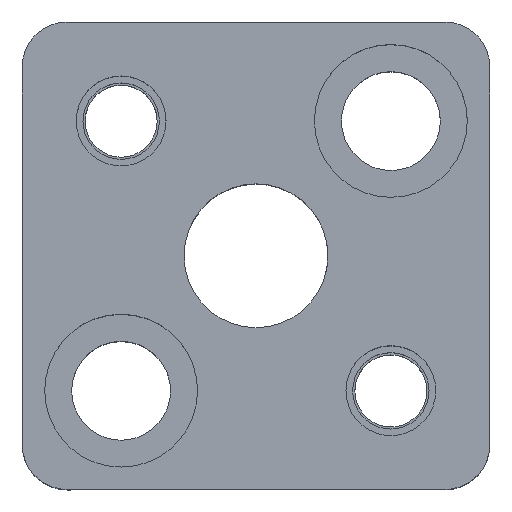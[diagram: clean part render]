
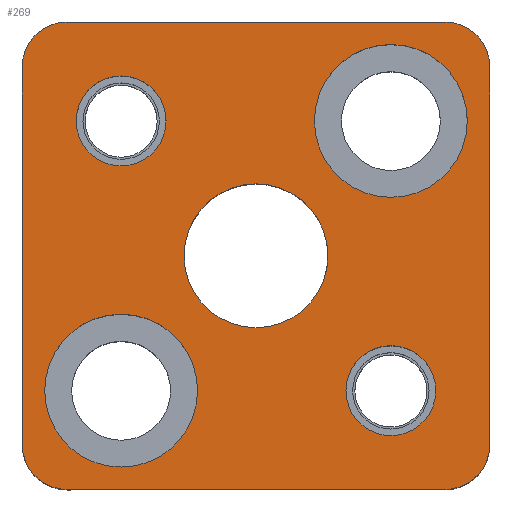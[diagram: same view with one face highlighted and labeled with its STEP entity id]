
A CAD part, top view. The second image highlights one B-rep face of the part: STEP entity #269.
In plain terms, the highlighted planar face has unit normal (0, 0, 1).
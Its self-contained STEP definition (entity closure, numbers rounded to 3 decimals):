
#111=FACE_BOUND('',#400,.T.);
#112=FACE_BOUND('',#401,.T.);
#113=FACE_BOUND('',#402,.T.);
#114=FACE_BOUND('',#403,.T.);
#115=FACE_BOUND('',#404,.T.);
#116=FACE_BOUND('',#405,.T.);
#162=CIRCLE('',#1027,5.);
#164=CIRCLE('',#1031,5.);
#166=CIRCLE('',#1035,5.);
#168=CIRCLE('',#1039,5.);
#181=CIRCLE('',#1065,8.5);
#183=CIRCLE('',#1068,8.5);
#185=CIRCLE('',#1072,8.5);
#187=CIRCLE('',#1075,8.5);
#211=CIRCLE('',#1118,5.);
#212=CIRCLE('',#1119,5.);
#213=CIRCLE('',#1120,5.);
#214=CIRCLE('',#1121,5.);
#215=CIRCLE('',#1122,8.);
#216=CIRCLE('',#1123,8.);
#269=ADVANCED_FACE('',(#111,#112,#113,#114,#115,#116),#297,.T.);
#297=PLANE('',#1124);
#400=EDGE_LOOP('',(#613,#614,#615,#616,#617,#618,#619,#620));
#401=EDGE_LOOP('',(#621,#622));
#402=EDGE_LOOP('',(#623,#624));
#403=EDGE_LOOP('',(#625,#626));
#404=EDGE_LOOP('',(#627,#628));
#405=EDGE_LOOP('',(#629,#630));
#613=ORIENTED_EDGE('',*,*,#785,.T.);
#614=ORIENTED_EDGE('',*,*,#782,.T.);
#615=ORIENTED_EDGE('',*,*,#779,.T.);
#616=ORIENTED_EDGE('',*,*,#776,.T.);
#617=ORIENTED_EDGE('',*,*,#773,.T.);
#618=ORIENTED_EDGE('',*,*,#770,.T.);
#619=ORIENTED_EDGE('',*,*,#791,.T.);
#620=ORIENTED_EDGE('',*,*,#788,.T.);
#621=ORIENTED_EDGE('',*,*,#877,.F.);
#622=ORIENTED_EDGE('',*,*,#878,.F.);
#623=ORIENTED_EDGE('',*,*,#879,.F.);
#624=ORIENTED_EDGE('',*,*,#880,.F.);
#625=ORIENTED_EDGE('',*,*,#830,.F.);
#626=ORIENTED_EDGE('',*,*,#826,.F.);
#627=ORIENTED_EDGE('',*,*,#824,.F.);
#628=ORIENTED_EDGE('',*,*,#820,.F.);
#629=ORIENTED_EDGE('',*,*,#881,.T.);
#630=ORIENTED_EDGE('',*,*,#882,.T.);
#685=VERTEX_POINT('',#1454);
#686=VERTEX_POINT('',#1456);
#688=VERTEX_POINT('',#1462);
#690=VERTEX_POINT('',#1468);
#692=VERTEX_POINT('',#1474);
#694=VERTEX_POINT('',#1480);
#696=VERTEX_POINT('',#1486);
#698=VERTEX_POINT('',#1492);
#715=VERTEX_POINT('',#1567);
#716=VERTEX_POINT('',#1568);
#719=VERTEX_POINT('',#1580);
#720=VERTEX_POINT('',#1581);
#754=VERTEX_POINT('',#1691);
#755=VERTEX_POINT('',#1692);
#756=VERTEX_POINT('',#1695);
#757=VERTEX_POINT('',#1696);
#758=VERTEX_POINT('',#1699);
#759=VERTEX_POINT('',#1700);
#770=EDGE_CURVE('',#686,#685,#902,.T.);
#773=EDGE_CURVE('',#688,#686,#162,.T.);
#776=EDGE_CURVE('',#690,#688,#906,.T.);
#779=EDGE_CURVE('',#692,#690,#164,.T.);
#782=EDGE_CURVE('',#694,#692,#910,.T.);
#785=EDGE_CURVE('',#696,#694,#166,.T.);
#788=EDGE_CURVE('',#698,#696,#914,.T.);
#791=EDGE_CURVE('',#685,#698,#168,.T.);
#820=EDGE_CURVE('',#715,#716,#181,.T.);
#824=EDGE_CURVE('',#716,#715,#183,.T.);
#826=EDGE_CURVE('',#719,#720,#185,.T.);
#830=EDGE_CURVE('',#720,#719,#187,.T.);
#877=EDGE_CURVE('',#754,#755,#211,.T.);
#878=EDGE_CURVE('',#755,#754,#212,.T.);
#879=EDGE_CURVE('',#756,#757,#213,.T.);
#880=EDGE_CURVE('',#757,#756,#214,.T.);
#881=EDGE_CURVE('',#758,#759,#215,.T.);
#882=EDGE_CURVE('',#759,#758,#216,.T.);
#902=LINE('',#1455,#964);
#906=LINE('',#1467,#968);
#910=LINE('',#1479,#972);
#914=LINE('',#1491,#976);
#964=VECTOR('',#1149,1.);
#968=VECTOR('',#1161,1.);
#972=VECTOR('',#1173,1.);
#976=VECTOR('',#1185,1.);
#1027=AXIS2_PLACEMENT_3D('',#1461,#1155,#1156);
#1031=AXIS2_PLACEMENT_3D('',#1473,#1167,#1168);
#1035=AXIS2_PLACEMENT_3D('',#1485,#1179,#1180);
#1039=AXIS2_PLACEMENT_3D('',#1496,#1191,#1192);
#1065=AXIS2_PLACEMENT_3D('',#1566,#1255,#1256);
#1068=AXIS2_PLACEMENT_3D('',#1575,#1263,#1264);
#1072=AXIS2_PLACEMENT_3D('',#1579,#1271,#1272);
#1075=AXIS2_PLACEMENT_3D('',#1588,#1279,#1280);
#1118=AXIS2_PLACEMENT_3D('',#1690,#1387,#1388);
#1119=AXIS2_PLACEMENT_3D('',#1693,#1389,#1390);
#1120=AXIS2_PLACEMENT_3D('',#1694,#1391,#1392);
#1121=AXIS2_PLACEMENT_3D('',#1697,#1393,#1394);
#1122=AXIS2_PLACEMENT_3D('',#1698,#1395,#1396);
#1123=AXIS2_PLACEMENT_3D('',#1701,#1397,#1398);
#1124=AXIS2_PLACEMENT_3D('',#1702,#1399,#1400);
#1149=DIRECTION('',(0.,-1.,0.));
#1155=DIRECTION('',(0.,0.,1.));
#1156=DIRECTION('',(0.707,-0.707,0.));
#1161=DIRECTION('',(-1.,0.,0.));
#1167=DIRECTION('',(0.,0.,1.));
#1168=DIRECTION('',(-0.707,-0.707,0.));
#1173=DIRECTION('',(0.,1.,0.));
#1179=DIRECTION('',(0.,0.,1.));
#1180=DIRECTION('',(-0.707,0.707,0.));
#1185=DIRECTION('',(1.,0.,0.));
#1191=DIRECTION('',(0.,0.,1.));
#1192=DIRECTION('',(0.707,0.707,0.));
#1255=DIRECTION('',(0.,0.,1.));
#1256=DIRECTION('',(-1.,0.,0.));
#1263=DIRECTION('',(0.,0.,1.));
#1264=DIRECTION('',(1.,0.,0.));
#1271=DIRECTION('',(0.,0.,1.));
#1272=DIRECTION('',(-1.,0.,0.));
#1279=DIRECTION('',(0.,0.,1.));
#1280=DIRECTION('',(1.,0.,0.));
#1387=DIRECTION('',(0.,0.,1.));
#1388=DIRECTION('',(1.,0.,0.));
#1389=DIRECTION('',(0.,0.,1.));
#1390=DIRECTION('',(-1.,0.,0.));
#1391=DIRECTION('',(0.,0.,1.));
#1392=DIRECTION('',(1.,0.,0.));
#1393=DIRECTION('',(0.,0.,1.));
#1394=DIRECTION('',(-1.,0.,0.));
#1395=DIRECTION('',(0.,0.,-1.));
#1396=DIRECTION('',(-1.,0.,0.));
#1397=DIRECTION('',(0.,0.,-1.));
#1398=DIRECTION('',(1.,0.,0.));
#1399=DIRECTION('',(0.,0.,1.));
#1400=DIRECTION('',(-1.,0.,0.));
#1454=CARTESIAN_POINT('',(-26.,-21.,30.));
#1455=CARTESIAN_POINT('',(-26.,21.,30.));
#1456=CARTESIAN_POINT('',(-26.,21.,30.));
#1461=CARTESIAN_POINT('',(-21.,21.,30.));
#1462=CARTESIAN_POINT('',(-21.,26.,30.));
#1467=CARTESIAN_POINT('',(-21.,26.,30.));
#1468=CARTESIAN_POINT('',(21.,26.,30.));
#1473=CARTESIAN_POINT('',(21.,21.,30.));
#1474=CARTESIAN_POINT('',(26.,21.,30.));
#1479=CARTESIAN_POINT('',(26.,21.,30.));
#1480=CARTESIAN_POINT('',(26.,-21.,30.));
#1485=CARTESIAN_POINT('',(21.,-21.,30.));
#1486=CARTESIAN_POINT('',(21.,-26.,30.));
#1491=CARTESIAN_POINT('',(-21.,-26.,30.));
#1492=CARTESIAN_POINT('',(-21.,-26.,30.));
#1496=CARTESIAN_POINT('',(-21.,-21.,30.));
#1566=CARTESIAN_POINT('',(-15.,-15.,30.));
#1567=CARTESIAN_POINT('',(-15.,-23.5,30.));
#1568=CARTESIAN_POINT('',(-15.,-6.5,30.));
#1575=CARTESIAN_POINT('',(-15.,-15.,30.));
#1579=CARTESIAN_POINT('',(15.,15.,30.));
#1580=CARTESIAN_POINT('',(15.,6.5,30.));
#1581=CARTESIAN_POINT('',(15.,23.5,30.));
#1588=CARTESIAN_POINT('',(15.,15.,30.));
#1690=CARTESIAN_POINT('',(-15.,15.,30.));
#1691=CARTESIAN_POINT('',(-15.,20.,30.));
#1692=CARTESIAN_POINT('',(-15.,10.,30.));
#1693=CARTESIAN_POINT('',(-15.,15.,30.));
#1694=CARTESIAN_POINT('',(15.,-15.,30.));
#1695=CARTESIAN_POINT('',(15.,-10.,30.));
#1696=CARTESIAN_POINT('',(15.,-20.,30.));
#1697=CARTESIAN_POINT('',(15.,-15.,30.));
#1698=CARTESIAN_POINT('',(0.,0.,30.));
#1699=CARTESIAN_POINT('',(0.,8.,30.));
#1700=CARTESIAN_POINT('',(0.,-8.,30.));
#1701=CARTESIAN_POINT('',(0.,0.,30.));
#1702=CARTESIAN_POINT('',(21.,-26.,30.));
